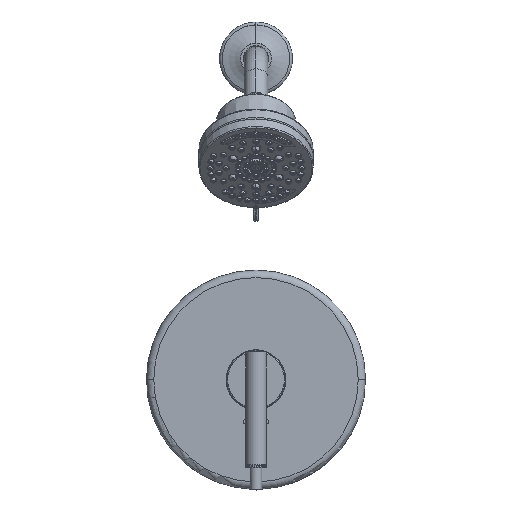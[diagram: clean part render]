
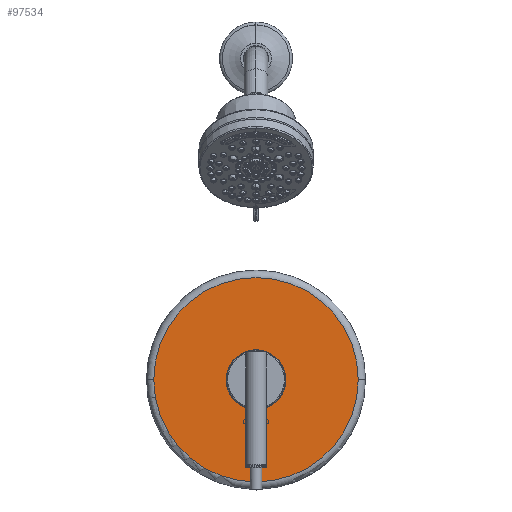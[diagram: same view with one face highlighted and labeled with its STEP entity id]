
A CAD part, top view. The second image highlights one B-rep face of the part: STEP entity #97534.
In plain terms, the highlighted planar face has unit normal (0, 0, 1).
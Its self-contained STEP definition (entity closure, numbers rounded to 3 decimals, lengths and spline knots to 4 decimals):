
#2406 = PLANE ( 'NONE',  #123353 ) ;
#3953 = FACE_BOUND ( 'NONE', #138347, .T. ) ;
#7164 = ORIENTED_EDGE ( 'NONE', *, *, #50718, .T. ) ;
#9728 = DIRECTION ( 'NONE',  ( 1., 0., 0. ) ) ;
#10129 = EDGE_CURVE ( 'NONE', #84891, #95825, #19988, .T. ) ;
#11673 = LINE ( 'NONE', #95624, #96429 ) ;
#11777 = CARTESIAN_POINT ( 'NONE',  ( 3.5, 0., 0. ) ) ;
#13793 = AXIS2_PLACEMENT_3D ( 'NONE', #128997, #81160, #9728 ) ;
#17943 = EDGE_CURVE ( 'NONE', #95825, #137599, #49190, .T. ) ;
#18210 = DIRECTION ( 'NONE',  ( 1., 0., 0. ) ) ;
#19988 = LINE ( 'NONE', #116465, #73477 ) ;
#29132 = CARTESIAN_POINT ( 'NONE',  ( -0.1275, -1.27, 0. ) ) ;
#30274 = DIRECTION ( 'NONE',  ( 0., 0., 1. ) ) ;
#31054 = DIRECTION ( 'NONE',  ( 1., 0., 0. ) ) ;
#35518 = VERTEX_POINT ( 'NONE', #11777 ) ;
#38514 = CARTESIAN_POINT ( 'NONE',  ( 0.1275, -1.0175, 0. ) ) ;
#42763 = DIRECTION ( 'NONE',  ( 0., 1., 0. ) ) ;
#47790 = DIRECTION ( 'NONE',  ( 0., -1., 0. ) ) ;
#49190 = CIRCLE ( 'NONE', #146834, 1.0255 ) ;
#50718 = EDGE_CURVE ( 'NONE', #78172, #35518, #104767, .T. ) ;
#55111 = DIRECTION ( 'NONE',  ( 0., 0., 1. ) ) ;
#66140 = EDGE_CURVE ( 'NONE', #84321, #84891, #97278, .T. ) ;
#69766 = AXIS2_PLACEMENT_3D ( 'NONE', #126469, #55111, #18210 ) ;
#73477 = VECTOR ( 'NONE', #42763, 39.3701 ) ;
#76149 = DIRECTION ( 'NONE',  ( 0., 0., 1. ) ) ;
#78172 = VERTEX_POINT ( 'NONE', #109723 ) ;
#81160 = DIRECTION ( 'NONE',  ( 0., 0., 1. ) ) ;
#81992 = DIRECTION ( 'NONE',  ( 0., 0., 1. ) ) ;
#84321 = VERTEX_POINT ( 'NONE', #29132 ) ;
#84891 = VERTEX_POINT ( 'NONE', #149354 ) ;
#95624 = CARTESIAN_POINT ( 'NONE',  ( -0.1275, -1.0175, 0. ) ) ;
#95825 = VERTEX_POINT ( 'NONE', #38514 ) ;
#96429 = VECTOR ( 'NONE', #47790, 39.3701 ) ;
#97278 = CIRCLE ( 'NONE', #69766, 0.1275 ) ;
#97534 = ADVANCED_FACE ( 'NONE', ( #3953, #120893 ), #2406, .T. ) ;
#104767 = CIRCLE ( 'NONE', #134784, 3.5 ) ;
#107999 = ORIENTED_EDGE ( 'NONE', *, *, #10129, .F. ) ;
#109723 = CARTESIAN_POINT ( 'NONE',  ( -3.5, 0., 0. ) ) ;
#112019 = EDGE_CURVE ( 'NONE', #35518, #78172, #129040, .T. ) ;
#116465 = CARTESIAN_POINT ( 'NONE',  ( 0.1275, -1.0175, 0. ) ) ;
#117847 = CARTESIAN_POINT ( 'NONE',  ( -0.1275, -1.0175, 0. ) ) ;
#119615 = CARTESIAN_POINT ( 'NONE',  ( 0., 0., 0. ) ) ;
#120893 = FACE_OUTER_BOUND ( 'NONE', #137533, .T. ) ;
#123213 = CARTESIAN_POINT ( 'NONE',  ( 0., 0., 0. ) ) ;
#123353 = AXIS2_PLACEMENT_3D ( 'NONE', #123213, #76149, #134969 ) ;
#126469 = CARTESIAN_POINT ( 'NONE',  ( 0., -1.27, 0. ) ) ;
#128997 = CARTESIAN_POINT ( 'NONE',  ( 0., 0., 0. ) ) ;
#129040 = CIRCLE ( 'NONE', #13793, 3.5 ) ;
#129832 = DIRECTION ( 'NONE',  ( 1., 0., 0. ) ) ;
#130044 = ORIENTED_EDGE ( 'NONE', *, *, #112019, .T. ) ;
#131035 = ORIENTED_EDGE ( 'NONE', *, *, #66140, .F. ) ;
#134784 = AXIS2_PLACEMENT_3D ( 'NONE', #149517, #30274, #31054 ) ;
#134969 = DIRECTION ( 'NONE',  ( 1., 0., 0. ) ) ;
#137298 = ORIENTED_EDGE ( 'NONE', *, *, #17943, .F. ) ;
#137533 = EDGE_LOOP ( 'NONE', ( #130044, #7164 ) ) ;
#137599 = VERTEX_POINT ( 'NONE', #117847 ) ;
#138014 = ORIENTED_EDGE ( 'NONE', *, *, #146505, .F. ) ;
#138347 = EDGE_LOOP ( 'NONE', ( #107999, #131035, #138014, #137298 ) ) ;
#146505 = EDGE_CURVE ( 'NONE', #137599, #84321, #11673, .T. ) ;
#146834 = AXIS2_PLACEMENT_3D ( 'NONE', #119615, #81992, #129832 ) ;
#149354 = CARTESIAN_POINT ( 'NONE',  ( 0.1275, -1.27, 0. ) ) ;
#149517 = CARTESIAN_POINT ( 'NONE',  ( 0., 0., 0. ) ) ;
